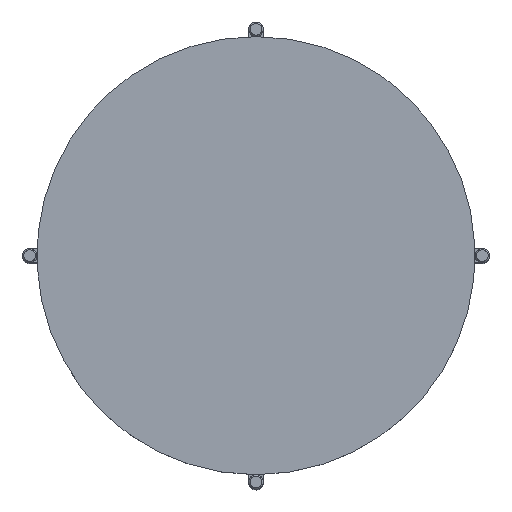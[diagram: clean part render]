
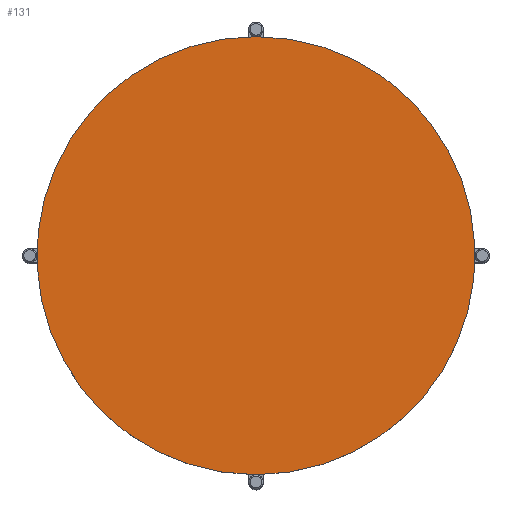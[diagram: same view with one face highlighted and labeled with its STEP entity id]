
A CAD part, top view. The second image highlights one B-rep face of the part: STEP entity #131.
In plain terms, the highlighted planar face has unit normal (0, 0, 1).
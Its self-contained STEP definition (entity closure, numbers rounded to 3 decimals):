
#131=ADVANCED_FACE('',(#179),#673,.T.);
#179=FACE_OUTER_BOUND('',#227,.T.);
#227=EDGE_LOOP('',(#394,#395));
#394=ORIENTED_EDGE('',*,*,#486,.F.);
#395=ORIENTED_EDGE('',*,*,#482,.F.);
#482=EDGE_CURVE('',#623,#625,#524,.T.);
#486=EDGE_CURVE('',#625,#623,#528,.T.);
#524=(
BOUNDED_CURVE()
B_SPLINE_CURVE(2,(#1338,#1339,#1340,#1341,#1342),.UNSPECIFIED.,.F.,.F.)
B_SPLINE_CURVE_WITH_KNOTS((3,2,3),(-188.496,-141.372,
-94.248),.UNSPECIFIED.)
CURVE()
GEOMETRIC_REPRESENTATION_ITEM()
RATIONAL_B_SPLINE_CURVE((1.,0.707,1.,0.707,1.))
REPRESENTATION_ITEM('')
);
#528=(
BOUNDED_CURVE()
B_SPLINE_CURVE(2,(#1352,#1353,#1354,#1355,#1356),.UNSPECIFIED.,.F.,.F.)
B_SPLINE_CURVE_WITH_KNOTS((3,2,3),(-94.248,-47.124,
0.),.UNSPECIFIED.)
CURVE()
GEOMETRIC_REPRESENTATION_ITEM()
RATIONAL_B_SPLINE_CURVE((1.,0.707,1.,0.707,1.))
REPRESENTATION_ITEM('')
);
#623=VERTEX_POINT('',#1334);
#625=VERTEX_POINT('',#1336);
#673=PLANE('',#715);
#715=AXIS2_PLACEMENT_3D('',#1322,#741,$);
#741=DIRECTION('',(0.,0.,1.));
#1322=CARTESIAN_POINT('',(752.749,0.,268.2));
#1334=CARTESIAN_POINT('',(532.132,212.132,268.2));
#1336=CARTESIAN_POINT('',(107.868,-212.132,268.2));
#1338=CARTESIAN_POINT('',(532.132,212.132,268.2));
#1339=CARTESIAN_POINT('',(744.264,0.,268.2));
#1340=CARTESIAN_POINT('',(532.132,-212.132,268.2));
#1341=CARTESIAN_POINT('',(320.,-424.264,268.2));
#1342=CARTESIAN_POINT('',(107.868,-212.132,268.2));
#1352=CARTESIAN_POINT('',(107.868,-212.132,268.2));
#1353=CARTESIAN_POINT('',(-104.264,0.,268.2));
#1354=CARTESIAN_POINT('',(107.868,212.132,268.2));
#1355=CARTESIAN_POINT('',(320.,424.264,268.2));
#1356=CARTESIAN_POINT('',(532.132,212.132,268.2));
